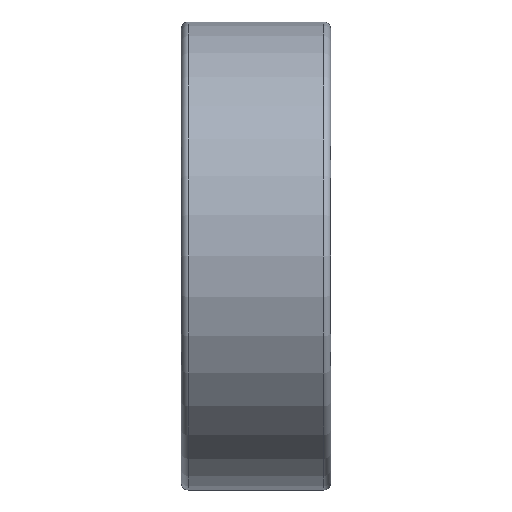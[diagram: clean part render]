
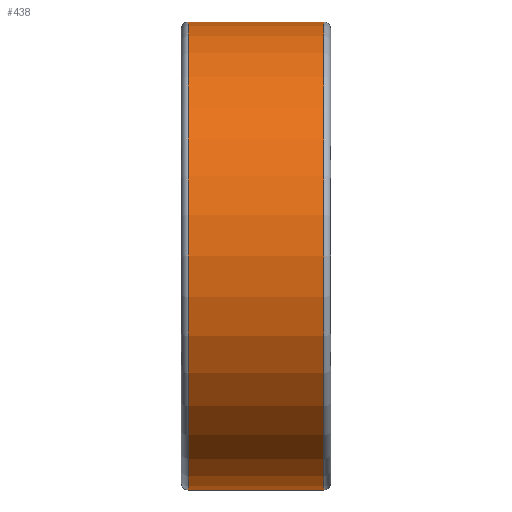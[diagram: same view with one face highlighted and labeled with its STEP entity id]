
A CAD part, left-side view. The second image highlights one B-rep face of the part: STEP entity #438.
In plain terms, the highlighted cylindrical face has radius 36 mm (diameter 72 mm), a full revolution.
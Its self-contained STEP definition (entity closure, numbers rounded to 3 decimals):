
#101=CYLINDRICAL_SURFACE('',#481,36.);
#116=FACE_BOUND('',#183,.T.);
#146=FACE_OUTER_BOUND('',#182,.T.);
#182=EDGE_LOOP('',(#337));
#183=EDGE_LOOP('',(#338));
#241=CIRCLE('',#480,36.);
#242=CIRCLE('',#482,36.);
#272=VERTEX_POINT('',#737);
#273=VERTEX_POINT('',#740);
#303=EDGE_CURVE('',#272,#272,#241,.T.);
#304=EDGE_CURVE('',#273,#273,#242,.T.);
#337=ORIENTED_EDGE('',*,*,#304,.F.);
#338=ORIENTED_EDGE('',*,*,#303,.F.);
#438=ADVANCED_FACE('',(#146,#116),#101,.T.);
#480=AXIS2_PLACEMENT_3D('',#738,#574,#575);
#481=AXIS2_PLACEMENT_3D('',#739,#576,#577);
#482=AXIS2_PLACEMENT_3D('',#741,#578,#579);
#574=DIRECTION('center_axis',(0.,-1.,0.));
#575=DIRECTION('ref_axis',(0.,0.,-1.));
#576=DIRECTION('center_axis',(0.,1.,0.));
#577=DIRECTION('ref_axis',(0.,0.,1.));
#578=DIRECTION('center_axis',(0.,1.,0.));
#579=DIRECTION('ref_axis',(0.,0.,-1.));
#737=CARTESIAN_POINT('',(0.,-21.9,36.));
#738=CARTESIAN_POINT('Origin',(0.,-21.9,0.));
#739=CARTESIAN_POINT('Origin',(0.,-11.5,0.));
#740=CARTESIAN_POINT('',(0.,-1.1,36.));
#741=CARTESIAN_POINT('Origin',(0.,-1.1,0.));
